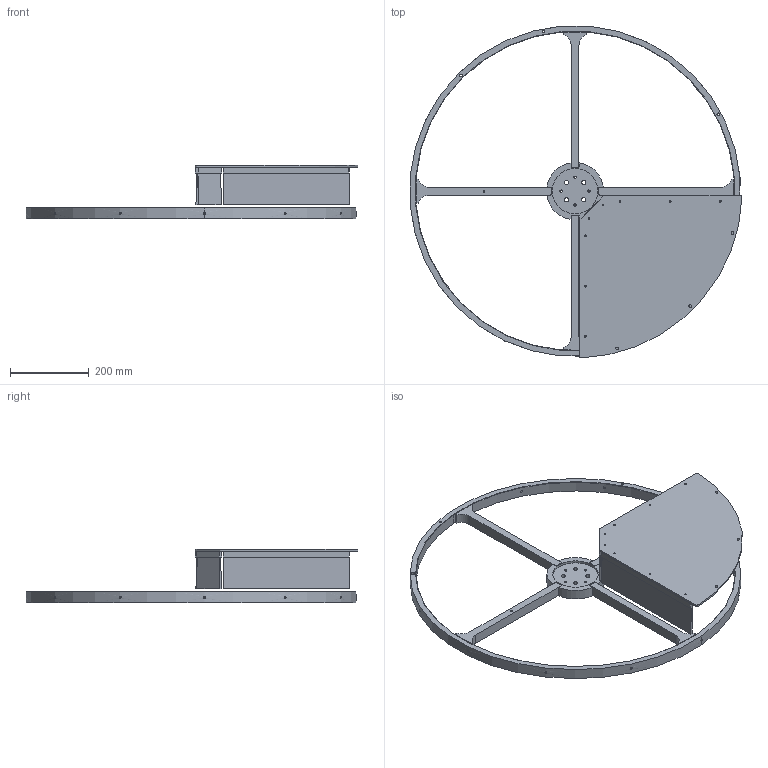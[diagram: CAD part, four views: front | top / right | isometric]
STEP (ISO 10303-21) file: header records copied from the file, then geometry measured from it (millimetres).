
FILE_DESCRIPTION (( 'STEP AP214' ), '1' );
FILE_NAME ('GM000474.STEP', '2021-09-17T08:20:41', ( '' ), ( '' ), 'SwSTEP 2.0', 'SolidWorks 2020', '' );
FILE_SCHEMA (( 'AUTOMOTIVE_DESIGN' ));
Length unit declared in the file: millimetre
Products named in the file (8): SM000067; SM000075; PD001094; PD001759; PD002369; PD001762; GM000474; PD002295
Assembly tree (10 placements, depth 2):
  GM000474
    PD001759
    PD001762  x3
    PD001094
    PD002295
    SM000075  x2
    PD002369
    SM000067
Bounding box: 842.5 x 842.5 x 136 mm (x, y, z)
Volume: 3141071.6 mm3; surface area: 860175.5 mm2
Topology: 10 solids, 10 shells, 405 faces, 1081 edges, 720 vertices
Faces by surface type: plane 213, cylinder 190, cone 2
Entity records: 11117 total; most frequent: CARTESIAN_POINT 2499, DIRECTION 1769, ORIENTED_EDGE 1670, EDGE_CURVE 835, AXIS2_PLACEMENT_3D 642, VERTEX_POINT 556, VECTOR 485, LINE 485
